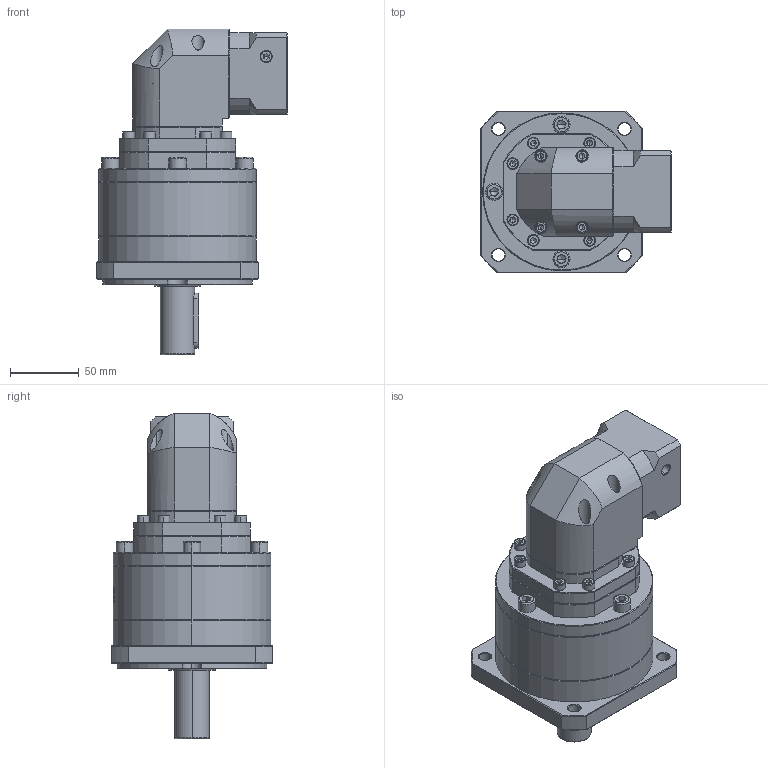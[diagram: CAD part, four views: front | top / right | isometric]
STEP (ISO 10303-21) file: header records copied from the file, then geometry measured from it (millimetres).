
FILE_DESCRIPTION (( 'STEP AP214' ), '1' );
FILE_NAME ('ZFR120A-D25-L3-P2-14-50-70-M4.step', '2023-08-27T09:48:06', ( '' ), ( '' ), 'SwSTEP 2.0', 'SolidWorks 2016', '' );
FILE_SCHEMA (( 'AUTOMOTIVE_DESIGN' ));
Length unit declared in the file: millimetre
Products named in the file (1): ZFR120A-D25-L3-P2-14-50-70-M4
Bounding box: 139.2 x 118 x 237.5 mm (x, y, z)
Volume: 1466625.6 mm3; surface area: 139085.8 mm2
Topology: 6 solids, 6 shells, 2427 faces, 6436 edges, 4125 vertices
Faces by surface type: plane 1172, cylinder 454, bspline 447, cone 346, torus 8
Entity records: 127111 total; most frequent: CARTESIAN_POINT 45652, ORIENTED_EDGE 12764, DIRECTION 9531, EDGE_CURVE 6382, VERTEX_POINT 4125, VECTOR 3399, LINE 3399, AXIS2_PLACEMENT_3D 3066
